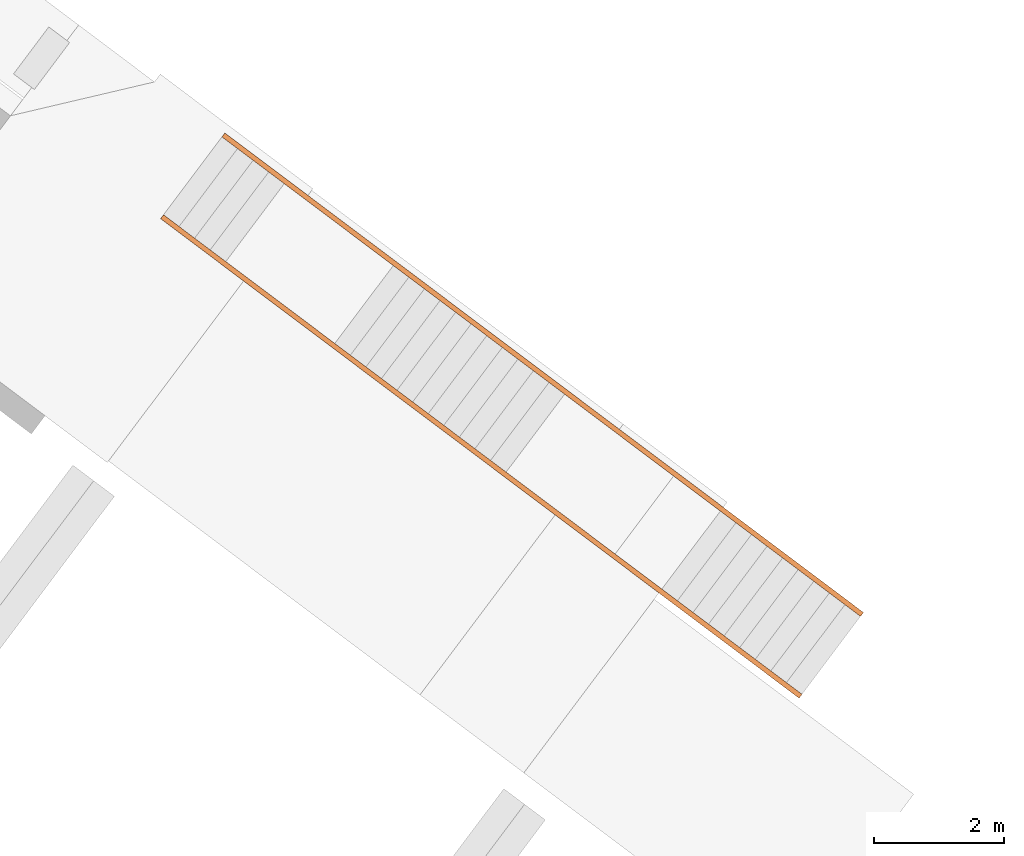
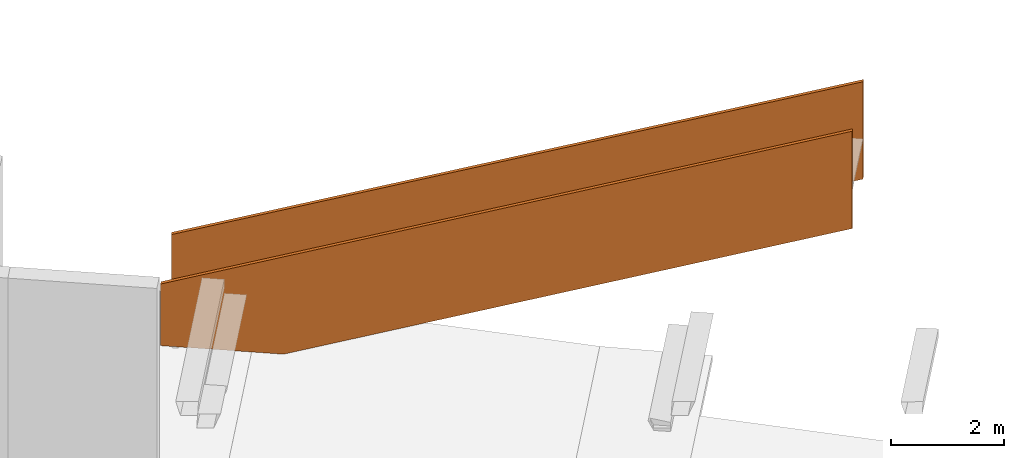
# One storey, part 11 of 11: 2 proxies.
"""IFC2X3 building model written with IfcOpenShell, lengths in metres."""

import ifcopenshell
import ifcopenshell.guid

model = None  # the IFC model being written
_history = None  # IfcOwnerHistory: only IFC2X3 demands one
_inside = {}  # id of a spatial element -> (the spatial element, [elements in it])
_under = {}  # id of a project, library or spatial element -> (it, [spatial elements below it])
_declared = {}  # id of a project -> (the project, [libraries it declares])
_typed = {}  # id of a type object -> (the type object, [elements of that type])
_made_of = {}  # id of a material, layer set ... -> (it, [elements and type objects made of it])


def new_model(schema):
    """Start an empty IFC model of exactly this schema.

    Asked for "IFC4X3", IfcOpenShell would pick the latest addendum, in which some entities
    have other attributes; the version numbers below select the first issue.
    IFC2X3 requires an IfcOwnerHistory on every rooted entity: one is made here for all.
    """
    global model, _history
    if schema == "IFC4X3":
        model = ifcopenshell.file(schema_version=(4, 3, 0, 0))
    else:
        model = ifcopenshell.file(schema=schema)
    _inside.clear()
    _under.clear()
    _declared.clear()
    _typed.clear()
    _made_of.clear()
    _history = None
    if model.schema == "IFC2X3":
        org = make("IfcOrganization", Name="unknown")
        user = make(
            "IfcPersonAndOrganization",
            ThePerson=make("IfcPerson", FamilyName="unknown"),
            TheOrganization=org,
        )
        app = make(
            "IfcApplication",
            ApplicationDeveloper=org,
            Version="unknown",
            ApplicationFullName="unknown",
            ApplicationIdentifier="unknown",
        )
        _history = make(
            "IfcOwnerHistory",
            OwningUser=user,
            OwningApplication=app,
            ChangeAction="ADDED",
            CreationDate=0,
        )
    return model


def make(cls, **values):
    """One entity of the class cls with the attributes given. An attribute that is None is left unset."""
    return model.create_entity(
        cls, **{name: value for name, value in values.items() if value is not None}
    )


def entity(cls, *values):
    """Any entity or typed value of the class cls, its attributes in the order of the schema. None: left unset."""
    e = model.create_entity(cls)
    for i, value in enumerate(values):
        if value is not None:
            e[i] = value
    return e


def rooted(cls, **values):
    """An entity with a GlobalId (a new one), such as an element, a storey or a relation."""
    return make(cls, GlobalId=ifcopenshell.guid.new(), OwnerHistory=_history, **values)


def si_unit(unit_type, name, prefix=None):
    """IfcSIUnit, for example si_unit("LENGTHUNIT", "METRE", prefix="MILLI")."""
    return make("IfcSIUnit", UnitType=unit_type, Prefix=prefix, Name=name)


def converted_unit(unit_type, name, factor, base, dimensions=None, offset=None):
    """IfcConversionBasedUnit, such as the inch: factor (a typed value) times the base unit."""
    return make(
        "IfcConversionBasedUnit"
        if offset is None
        else "IfcConversionBasedUnitWithOffset",
        ConversionOffset=offset,
        Dimensions=None
        if dimensions is None
        else entity("IfcDimensionalExponents", *dimensions),
        UnitType=unit_type,
        Name=name,
        ConversionFactor=make(
            "IfcMeasureWithUnit", ValueComponent=factor, UnitComponent=base
        ),
    )


def derived_unit(unit_type, elements):
    """IfcDerivedUnit: a product of units, each with its exponent."""
    return make(
        "IfcDerivedUnit",
        Elements=[
            make("IfcDerivedUnitElement", Unit=unit, Exponent=power)
            for unit, power in elements
        ],
        UnitType=unit_type,
    )


def assignment(units):
    """IfcUnitAssignment: the units of a project."""
    return None if units is None else make("IfcUnitAssignment", Units=units)


def point(xyz):
    """IfcCartesianPoint."""
    return None if xyz is None else make("IfcCartesianPoint", Coordinates=xyz)


def direction(xyz):
    """IfcDirection."""
    return None if xyz is None else make("IfcDirection", DirectionRatios=xyz)


def frame(location, z_axis=None, x_axis=None):
    """IfcAxis2Placement3D, a coordinate frame: its origin and axes. An axis left out is left unset."""
    return make(
        "IfcAxis2Placement3D",
        Location=point(location),
        Axis=direction(z_axis),
        RefDirection=direction(x_axis),
    )


def origin():
    """The frame at (0, 0, 0) with its axes left unset."""
    return frame((0.0, 0.0, 0.0))


def place(relative_to, where):
    """IfcLocalPlacement: puts the frame where relative to a parent placement (None: the world)."""
    return make(
        "IfcLocalPlacement", PlacementRelTo=relative_to, RelativePlacement=where
    )


def context(
    kind, dimensions, precision=None, world=None, true_north=None, identifier=None
):
    """IfcGeometricRepresentationContext, for example the 3D "Model" context."""
    return make(
        "IfcGeometricRepresentationContext",
        ContextIdentifier=identifier,
        ContextType=kind,
        CoordinateSpaceDimension=dimensions,
        Precision=precision,
        WorldCoordinateSystem=world,
        TrueNorth=true_north,
    )


def subcontext(parent, identifier, kind, view, scale=None):
    """IfcGeometricRepresentationSubContext, for example "Body" below "Model"."""
    return make(
        "IfcGeometricRepresentationSubContext",
        ContextIdentifier=identifier,
        ContextType=kind,
        ParentContext=parent,
        TargetScale=scale,
        TargetView=view,
    )


def project(units=None, contexts=None):
    """IfcProject with its units and contexts."""
    return rooted(
        "IfcProject",
        Name="project",
        RepresentationContexts=contexts,
        UnitsInContext=assignment(units),
    )


def spatial(cls, under=None, at=None, **own):
    """A site, building, storey or space (cls), placed at a placement, below another one or the project."""
    s = rooted(cls, ObjectPlacement=at, **own)
    if under is not None:
        _under.setdefault(under.id(), (under, []))[1].append(s)
    return s


def faces_of(points, faces, orient=None, outer=None):
    """IfcFace entities. A face is a list of loops; a loop is a list of indices into points, from 0.

    orient and outer hold one flag for each loop. By default every Orientation is true, the
    first loop of a face is its IfcFaceOuterBound and the others are IfcFaceBound.
    """
    made = []
    for i, loops in enumerate(faces):
        bounds = []
        for j, loop in enumerate(loops):
            is_outer = j == 0 if outer is None else outer[i][j]
            bounds.append(
                make(
                    "IfcFaceOuterBound" if is_outer else "IfcFaceBound",
                    Bound=make("IfcPolyLoop", Polygon=[points[k] for k in loop]),
                    Orientation=True if orient is None else orient[i][j],
                )
            )
        made.append(make("IfcFace", Bounds=bounds))
    return made


def faceted_brep(points, faces, orient=None, outer=None, voids=None):
    """IfcFacetedBrep: a solid bounded by flat faces; with voids (closed shells), ...WithVoids."""
    shared = [point(p) for p in points]
    hull = make("IfcClosedShell", CfsFaces=faces_of(shared, faces, orient, outer))
    if voids is None:
        return make("IfcFacetedBrep", Outer=hull)
    return make(
        "IfcFacetedBrepWithVoids",
        Outer=hull,
        Voids=[
            make(cls, CfsFaces=faces_of(shared, fs, o, b)) for cls, fs, o, b in voids
        ],
    )


def shape(context_of_items, identifier, shape_type, items):
    """IfcShapeRepresentation: the items that make up one representation, for example the "Body"."""
    return make(
        "IfcShapeRepresentation",
        ContextOfItems=context_of_items,
        RepresentationIdentifier=identifier,
        RepresentationType=shape_type,
        Items=items,
    )


def source(mapping_origin, context_of_items, identifier, shape_type, items):
    """IfcRepresentationMap: a shape defined once, which mapped items show again and again."""
    return make(
        "IfcRepresentationMap",
        MappingOrigin=mapping_origin,
        MappedRepresentation=shape(context_of_items, identifier, shape_type, items),
    )


def transform(
    local_origin,
    x_axis=None,
    y_axis=None,
    z_axis=None,
    scale=None,
    scale2=None,
    scale3=None,
    uniform=True,
):
    """IfcCartesianTransformationOperator3D, or its non-uniform kind. x_axis, y_axis, z_axis: its Axis1, 2, 3."""
    if uniform:
        return make(
            "IfcCartesianTransformationOperator3D",
            Axis1=direction(x_axis),
            Axis2=direction(y_axis),
            LocalOrigin=point(local_origin),
            Scale=scale,
            Axis3=direction(z_axis),
        )
    return make(
        "IfcCartesianTransformationOperator3DnonUniform",
        Axis1=direction(x_axis),
        Axis2=direction(y_axis),
        LocalOrigin=point(local_origin),
        Scale=scale,
        Axis3=direction(z_axis),
        Scale2=scale2,
        Scale3=scale3,
    )


def mapped(mapping_source, mapping_target):
    """IfcMappedItem: shows the shape of a source again, moved by a transform."""
    return make(
        "IfcMappedItem", MappingSource=mapping_source, MappingTarget=mapping_target
    )


def material(Name=None, Category=None):
    """IfcMaterial."""
    return make("IfcMaterial", Name=Name, Category=Category)


def made_of(thing, what):
    """Note that an element or type object is made of a material, layer set ...; save() writes the relation."""
    if what is not None:
        _made_of.setdefault(what.id(), (what, []))[1].append(thing)
    return thing


def type_object(cls, material=None, **own):
    """A type object (cls), such as IfcWallType, which elements share."""
    return made_of(rooted(cls, **own), material)


def type_shapes(of_type, sources):
    """Give a type object the sources (RepresentationMaps) that its elements show as mapped items."""
    of_type.RepresentationMaps = sources


def element(
    cls,
    number,
    at=None,
    inside=None,
    cuts=None,
    type_object=None,
    material=None,
    context=None,
    identifier="Body",
    shape_type=None,
    held_by="IfcProductDefinitionShape",
    body=None,
    shapes=None,
    **own,
):
    """One element of the class cls, such as IfcWall. Its Tag is "e" and its number.

    at: its placement. inside: the storey or other place that contains it. cuts: it is an
    opening in that element (IfcRelVoidsElement). A single representation is given by context,
    identifier, shape_type and body (its items); several are given by shapes. held_by: the class
    of the entity that holds the representations. save() writes the other relations.
    """
    e = rooted(cls, Tag="e%d" % number, ObjectPlacement=at, **own)
    if body is not None:
        shapes = [shape(context, identifier, shape_type, body)]
    if shapes is not None:
        e.Representation = make(held_by, Representations=shapes)
    if inside is not None:
        _inside.setdefault(inside.id(), (inside, []))[1].append(e)
    if cuts is not None:
        rooted(
            "IfcRelVoidsElement", RelatingBuildingElement=cuts, RelatedOpeningElement=e
        )
    if type_object is not None:
        _typed.setdefault(type_object.id(), (type_object, []))[1].append(e)
    return made_of(e, material)


def aggregate(whole, parts):
    """IfcRelAggregates: a whole, such as a stair, and the parts it consists of."""
    return rooted("IfcRelAggregates", RelatingObject=whole, RelatedObjects=parts)


def save(model, path):
    """Write the relations noted so far, then the file.

    IfcRelAggregates (storeys below a building ...), IfcRelContainedInSpatialStructure (elements
    in a storey), IfcRelDefinesByType, IfcRelAssociatesMaterial and IfcRelDeclares: one each for
    every whole, place, type object, material and project.
    """
    for whole, parts in _under.values():
        aggregate(whole, parts)
    for where, things in _inside.values():
        rooted(
            "IfcRelContainedInSpatialStructure",
            RelatedElements=things,
            RelatingStructure=where,
        )
    for kind, things in _typed.values():
        rooted("IfcRelDefinesByType", RelatedObjects=things, RelatingType=kind)
    for what, things in _made_of.values():
        rooted("IfcRelAssociatesMaterial", RelatedObjects=things, RelatingMaterial=what)
    for by, libraries in _declared.values():
        rooted("IfcRelDeclares", RelatingContext=by, RelatedDefinitions=libraries)
    model.write(path)


model = new_model("IFC2X3")

# Units and contexts
model_context = context("Model", 3, precision=1e-05, world=origin(), true_north=direction((6.123031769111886e-17, 1.0)))
body_context = subcontext(model_context, "Body", "Model", "MODEL_VIEW")
ifc_project = project(units=[si_unit("LENGTHUNIT", "METRE"), si_unit("AREAUNIT", "SQUARE_METRE"), si_unit("VOLUMEUNIT", "CUBIC_METRE"), converted_unit("PLANEANGLEUNIT", "DEGREE", entity("IfcRatioMeasure", 0.017453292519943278), si_unit("PLANEANGLEUNIT", "RADIAN"), dimensions=[0, 0, 0, 0, 0, 0, 0]), si_unit("MASSUNIT", "GRAM", prefix="KILO"), derived_unit("MASSDENSITYUNIT", [(si_unit("MASSUNIT", "GRAM", prefix="KILO"), 1), (si_unit("LENGTHUNIT", "METRE"), -3)]), derived_unit("IONCONCENTRATIONUNIT", [(si_unit("MASSUNIT", "GRAM", prefix="KILO"), 1), (si_unit("LENGTHUNIT", "METRE"), -3)]), derived_unit("MOMENTOFINERTIAUNIT", [(si_unit("LENGTHUNIT", "METRE"), 4)]), si_unit("TIMEUNIT", "SECOND"), si_unit("FREQUENCYUNIT", "HERTZ"), si_unit("THERMODYNAMICTEMPERATUREUNIT", "DEGREE_CELSIUS"), derived_unit("THERMALTRANSMITTANCEUNIT", [(si_unit("MASSUNIT", "GRAM", prefix="KILO"), 1), (si_unit("THERMODYNAMICTEMPERATUREUNIT", "KELVIN"), -1), (si_unit("TIMEUNIT", "SECOND"), -3)]), derived_unit("THERMALCONDUCTANCEUNIT", [(si_unit("MASSUNIT", "GRAM", prefix="KILO"), 1), (si_unit("THERMODYNAMICTEMPERATUREUNIT", "KELVIN"), -1), (si_unit("TIMEUNIT", "SECOND"), -3), (si_unit("LENGTHUNIT", "METRE"), 1)]), derived_unit("VOLUMETRICFLOWRATEUNIT", [(si_unit("LENGTHUNIT", "METRE"), 3), (si_unit("TIMEUNIT", "SECOND"), -1)]), derived_unit("MASSFLOWRATEUNIT", [(si_unit("MASSUNIT", "GRAM", prefix="KILO"), 1), (si_unit("TIMEUNIT", "SECOND"), -1)]), derived_unit("ROTATIONALFREQUENCYUNIT", [(si_unit("TIMEUNIT", "SECOND"), -1)]), si_unit("ELECTRICCURRENTUNIT", "AMPERE"), si_unit("ELECTRICVOLTAGEUNIT", "VOLT"), si_unit("POWERUNIT", "WATT"), si_unit("FORCEUNIT", "NEWTON", prefix="KILO"), si_unit("ILLUMINANCEUNIT", "LUX"), si_unit("LUMINOUSFLUXUNIT", "LUMEN"), si_unit("LUMINOUSINTENSITYUNIT", "CANDELA"), derived_unit("USERDEFINED", [(si_unit("MASSUNIT", "GRAM", prefix="KILO"), -1), (si_unit("LENGTHUNIT", "METRE"), -2), (si_unit("TIMEUNIT", "SECOND"), 3), (si_unit("LUMINOUSFLUXUNIT", "LUMEN"), 1)]), derived_unit("USERDEFINED", [(si_unit("MASSUNIT", "GRAM", prefix="KILO"), 1), (si_unit("TIMEUNIT", "SECOND"), -3), (si_unit("LENGTHUNIT", "METRE"), 3), (si_unit("ELECTRICCURRENTUNIT", "AMPERE"), -2)]), derived_unit("SOUNDPOWERUNIT", [(si_unit("MASSUNIT", "GRAM", prefix="KILO"), 1), (si_unit("TIMEUNIT", "SECOND"), -3), (si_unit("LENGTHUNIT", "METRE"), 2)]), derived_unit("SOUNDPRESSUREUNIT", [(si_unit("MASSUNIT", "GRAM", prefix="KILO"), 1), (si_unit("LENGTHUNIT", "METRE"), -1), (si_unit("TIMEUNIT", "SECOND"), -2)]), derived_unit("LINEARVELOCITYUNIT", [(si_unit("LENGTHUNIT", "METRE"), 1), (si_unit("TIMEUNIT", "SECOND"), -1)]), si_unit("PRESSUREUNIT", "PASCAL"), derived_unit("USERDEFINED", [(si_unit("MASSUNIT", "GRAM", prefix="KILO"), 1), (si_unit("LENGTHUNIT", "METRE"), -2), (si_unit("TIMEUNIT", "SECOND"), -2)]), derived_unit("LINEARFORCEUNIT", [(si_unit("MASSUNIT", "GRAM", prefix="KILO"), 1), (si_unit("TIMEUNIT", "SECOND"), -2)]), derived_unit("PLANARFORCEUNIT", [(si_unit("MASSUNIT", "GRAM", prefix="KILO"), 1), (si_unit("LENGTHUNIT", "METRE"), -1), (si_unit("TIMEUNIT", "SECOND"), -2)]), derived_unit("SPECIFICHEATCAPACITYUNIT", [(si_unit("THERMODYNAMICTEMPERATUREUNIT", "KELVIN"), -1), (si_unit("LENGTHUNIT", "METRE"), 2), (si_unit("TIMEUNIT", "SECOND"), -2)]), derived_unit("HEATINGVALUEUNIT", [(si_unit("LENGTHUNIT", "METRE"), 2), (si_unit("TIMEUNIT", "SECOND"), -2)]), derived_unit("VAPORPERMEABILITYUNIT", [(si_unit("LENGTHUNIT", "METRE"), -1), (si_unit("TIMEUNIT", "SECOND"), 1)]), derived_unit("DYNAMICVISCOSITYUNIT", [(si_unit("MASSUNIT", "GRAM", prefix="KILO"), 1), (si_unit("TIMEUNIT", "SECOND"), -1), (si_unit("LENGTHUNIT", "METRE"), -1)]), derived_unit("THERMALEXPANSIONCOEFFICIENTUNIT", [(si_unit("THERMODYNAMICTEMPERATUREUNIT", "KELVIN"), -1)]), derived_unit("MODULUSOFELASTICITYUNIT", [(si_unit("MASSUNIT", "GRAM", prefix="KILO"), 1), (si_unit("LENGTHUNIT", "METRE"), -1), (si_unit("TIMEUNIT", "SECOND"), -2)]), derived_unit("ISOTHERMALMOISTURECAPACITYUNIT", [(si_unit("LENGTHUNIT", "METRE"), 3), (si_unit("MASSUNIT", "GRAM", prefix="KILO"), -1)]), derived_unit("MOISTUREDIFFUSIVITYUNIT", [(si_unit("TIMEUNIT", "SECOND"), -1), (si_unit("LENGTHUNIT", "METRE"), 2)])], contexts=[model_context])

# Site, building, storey
site_placement = place(None, origin())
site = spatial("IfcSite", under=ifc_project, at=site_placement, Name="Default", CompositionType="ELEMENT")
building_placement = place(site_placement, frame((0.0, 0.0, 235.0), z_axis=(0.0, 0.0, 1.0), x_axis=(-0.7996477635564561, 0.6004693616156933, 0.0)))
building = spatial("IfcBuilding", under=site, at=building_placement, CompositionType="ELEMENT")
storey_placement = place(building_placement, frame((0.0, 0.0, -4.459999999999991)))
storey = spatial("IfcBuildingStorey", under=building, at=storey_placement, Name="PS1- Vestuari", CompositionType="ELEMENT", Elevation=-4.459999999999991)

# Proxies
ifc_material = material(Name="_Acer- STR")
building_element_proxy_type_1 = type_object("IfcBuildingElementProxyType", Name="EscalaExterior:EscalaExterior", PredefinedType="NOTDEFINED", material=ifc_material)
shared_shape_1 = source(origin(), body_context, "Body", "Brep", [
    faceted_brep([(-12.000170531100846, 5.576561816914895, 0.0), (-12.000170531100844, 5.576561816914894, 0.07499999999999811), (-11.990170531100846, 5.573042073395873, 0.07499999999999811), (0.2898279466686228, 1.250797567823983, 0.07499999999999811), (0.2998279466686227, 1.2472778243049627, 0.07499999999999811), (0.2998279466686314, 1.247277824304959, 0.0), (0.2898279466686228, 1.2507975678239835, 0.0), (-11.990170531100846, 5.573042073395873, 0.0), (-12.00017053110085, 3.4788770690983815, 0.0), (0.2998279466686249, -0.08002526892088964, 0.0), (-1.8885241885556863, -0.08002526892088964, 0.0), (-11.990170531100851, 3.47535746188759, 0.010000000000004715), (-1.8885241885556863, -0.0800252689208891, 0.010000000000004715), (0.28982794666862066, -0.08002526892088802, 0.010000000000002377), (0.28982794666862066, -0.050025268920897, 0.010000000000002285), (-1.8833988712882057, -0.05002526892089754, 0.010000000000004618), (-11.980210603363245, 3.5036558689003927, 0.010000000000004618), (-11.961950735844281, 3.555536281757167, 0.01000000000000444), (-1.8740024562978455, 0.004974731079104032, 0.01000000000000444), (0.2898279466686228, 0.004974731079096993, 0.010000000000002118), (0.2898279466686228, 1.2401962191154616, 0.009999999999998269), (-11.990170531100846, 5.5624407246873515, 0.009999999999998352), (0.2898279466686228, 1.2401962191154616, 0.06499999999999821), (-11.990170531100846, 5.5624407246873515, 0.06499999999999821), (0.28982794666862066, 0.004974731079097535, 0.06499999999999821), (-1.8740024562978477, 0.004974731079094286, 0.06499999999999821), (-11.96195073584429, 3.5555362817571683, 0.06499999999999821), (-11.980210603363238, 3.5036558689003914, 0.06499999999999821), (-1.8833988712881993, -0.05002526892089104, 0.06499999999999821), (0.2898279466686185, -0.05002526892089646, 0.06499999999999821), (0.2898279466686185, -0.08002526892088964, 0.06499999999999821), (-1.8885241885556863, -0.08002526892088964, 0.06499999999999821), (-11.990170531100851, 3.47535746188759, 0.06499999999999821), (-12.000170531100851, 3.4788770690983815, 0.07499999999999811), (-1.8885241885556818, -0.0800252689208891, 0.07499999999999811), (0.2998279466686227, -0.08002526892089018, 0.07499999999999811)], [[[0, 1, 2, 3, 4, 5, 6, 7]], [[8, 0, 7, 6, 5, 9, 10]], [[11, 12, 13, 14, 15, 16, 17, 18, 19, 20, 21]], [[21, 20, 22, 23]], [[23, 22, 24, 25, 26, 27, 28, 29, 30, 31, 32]], [[1, 33, 34, 35, 4, 3, 2]], [[1, 0, 8, 33]], [[5, 4, 35, 9]], [[12, 10, 9, 35, 34, 31, 30, 13]], [[10, 12, 11, 32, 31, 34, 33, 8]], [[32, 11, 21, 23]], [[13, 30, 29, 14]], [[26, 17, 16, 27]], [[17, 26, 25, 18]], [[27, 16, 15, 28]], [[18, 25, 24, 19]], [[28, 15, 14, 29]], [[22, 20, 19, 24]]]),
])
type_shapes(building_element_proxy_type_1, [shared_shape_1])
proxy_1_placement = place(storey_placement, frame((37.94531821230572, -41.8371917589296, 0.05000000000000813), z_axis=(0.0, -1.0, 0.0), x_axis=(1.0, 0.0, 0.0)))
element("IfcBuildingElementProxy", 1, at=proxy_1_placement, inside=storey, type_object=building_element_proxy_type_1, material=ifc_material, Name="EscalaExterior:EscalaExterior", ObjectType="EscalaExterior:EscalaExterior", context=body_context, shape_type="MappedRepresentation", body=[
    mapped(shared_shape_1, transform((0.0, 0.0, 0.0), scale=1.0)),
])
building_element_proxy_type_2 = type_object("IfcBuildingElementProxyType", Name="EscalaExterior:EscalaExterior", PredefinedType="NOTDEFINED", material=ifc_material)
shared_shape_2 = source(origin(), body_context, "Body", "Brep", [
    faceted_brep([(-12.000170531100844, -5.576561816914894, 0.0), (-11.990170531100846, -5.5730420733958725, 0.0), (0.2898279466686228, -1.250797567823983, 0.0), (0.2998279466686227, -1.2472778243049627, 0.0), (0.2998279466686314, -1.247277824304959, 0.07499999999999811), (0.2898279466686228, -1.250797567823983, 0.07499999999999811), (-11.990170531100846, -5.573042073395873, 0.07499999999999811), (-12.000170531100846, -5.576561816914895, 0.07499999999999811), (-12.000170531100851, -3.4788770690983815, 0.0), (-1.8885241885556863, 0.08002526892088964, 0.0), (0.2998279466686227, 0.08002526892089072, 0.0), (-11.990170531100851, -3.47535746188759, 0.010000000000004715), (-11.990170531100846, -5.5624407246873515, 0.009999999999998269), (0.2898279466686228, -1.2401962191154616, 0.009999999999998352), (0.2898279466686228, -0.004974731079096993, 0.010000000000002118), (-1.87400245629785, -0.004974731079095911, 0.01000000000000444), (-11.96195073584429, -3.5555362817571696, 0.01000000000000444), (-11.980210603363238, -3.5036558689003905, 0.010000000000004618), (-1.8833988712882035, 0.05002526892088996, 0.010000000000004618), (0.28982794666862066, 0.050025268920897, 0.010000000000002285), (0.28982794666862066, 0.08002526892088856, 0.010000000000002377), (-1.8885241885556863, 0.08002526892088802, 0.010000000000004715), (-11.990170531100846, -5.5624407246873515, 0.06499999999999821), (0.2898279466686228, -1.2401962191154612, 0.06499999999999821), (-11.990170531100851, -3.47535746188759, 0.06499999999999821), (-1.8885241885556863, 0.08002526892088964, 0.06499999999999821), (0.28982794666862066, 0.08002526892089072, 0.06499999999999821), (0.2898279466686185, 0.05002526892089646, 0.06499999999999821), (-1.8833988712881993, 0.05002526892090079, 0.06499999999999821), (-11.980210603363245, -3.5036558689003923, 0.06499999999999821), (-11.961950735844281, -3.555536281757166, 0.06499999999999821), (-1.8740024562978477, -0.0049747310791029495, 0.06499999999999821), (0.28982794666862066, -0.004974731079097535, 0.06499999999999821), (0.29982794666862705, 0.0800252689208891, 0.07499999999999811), (-1.8885241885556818, 0.0800252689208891, 0.07499999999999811), (-12.00017053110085, -3.4788770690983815, 0.07499999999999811)], [[[0, 1, 2, 3, 4, 5, 6, 7]], [[8, 9, 10, 3, 2, 1, 0]], [[11, 12, 13, 14, 15, 16, 17, 18, 19, 20, 21]], [[12, 22, 23, 13]], [[22, 24, 25, 26, 27, 28, 29, 30, 31, 32, 23]], [[7, 6, 5, 4, 33, 34, 35]], [[7, 35, 8, 0]], [[3, 10, 33, 4]], [[21, 20, 26, 25, 34, 33, 10, 9]], [[9, 8, 35, 34, 25, 24, 11, 21]], [[24, 22, 12, 11]], [[23, 32, 14, 13]], [[30, 29, 17, 16]], [[16, 15, 31, 30]], [[29, 28, 18, 17]], [[15, 14, 32, 31]], [[28, 27, 19, 18]], [[20, 19, 27, 26]]]),
])
type_shapes(building_element_proxy_type_2, [shared_shape_2])
proxy_2_placement = place(storey_placement, frame((37.94531821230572, -40.33719175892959, 0.0800000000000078), z_axis=(0.0, 1.0, 0.0), x_axis=(1.0, 0.0, 0.0)))
element("IfcBuildingElementProxy", 2, at=proxy_2_placement, inside=storey, type_object=building_element_proxy_type_2, material=ifc_material, Name="EscalaExterior:EscalaExterior", ObjectType="EscalaExterior:EscalaExterior", context=body_context, shape_type="MappedRepresentation", body=[
    mapped(shared_shape_2, transform((0.0, 0.0, 0.0), scale=1.0)),
])

save(model, "model.ifc")
